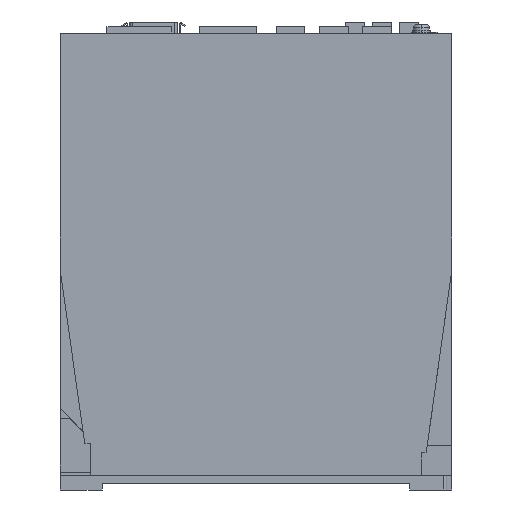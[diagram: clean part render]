
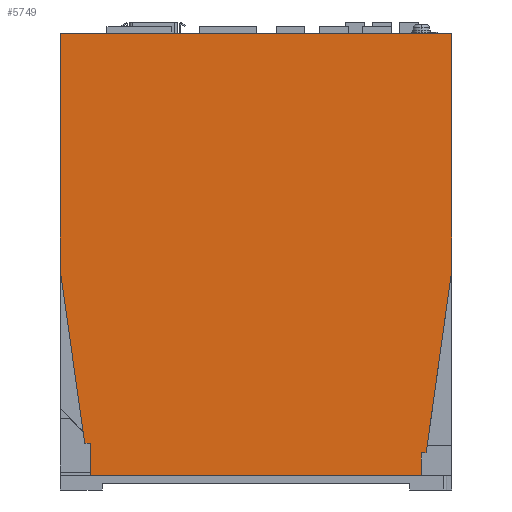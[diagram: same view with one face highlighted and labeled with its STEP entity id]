
A CAD part, left-side view. The second image highlights one B-rep face of the part: STEP entity #5749.
In plain terms, the highlighted planar face has unit normal (-1, 0, 0).
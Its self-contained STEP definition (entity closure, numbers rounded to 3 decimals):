
#2530=DIRECTION('',(0.,-1.,0.));
#2531=VECTOR('',#2530,168.);
#2532=CARTESIAN_POINT('',(-42.5,84.,0.));
#2533=LINE('',#2532,#2531);
#3368=DIRECTION('',(0.,0.,-1.));
#3369=VECTOR('',#3368,102.2);
#3370=CARTESIAN_POINT('',(-42.5,-84.,0.));
#3371=LINE('',#3370,#3369);
#3416=DIRECTION('',(0.,-1.,0.));
#3417=VECTOR('',#3416,142.);
#3418=CARTESIAN_POINT('',(-42.5,71.,-190.));
#3419=LINE('',#3418,#3417);
#3460=DIRECTION('',(0.,0.,1.));
#3461=VECTOR('',#3460,13.9);
#3462=CARTESIAN_POINT('',(-42.5,71.,-190.));
#3463=LINE('',#3462,#3461);
#3464=DIRECTION('',(0.,1.,0.));
#3465=VECTOR('',#3464,2.56);
#3466=CARTESIAN_POINT('',(-42.5,71.,-176.1));
#3467=LINE('',#3466,#3465);
#3468=DIRECTION('',(0.,0.14,0.99));
#3469=VECTOR('',#3468,74.634);
#3470=CARTESIAN_POINT('',(-42.5,73.56,-176.1));
#3471=LINE('',#3470,#3469);
#3472=DIRECTION('',(0.,0.,-1.));
#3473=VECTOR('',#3472,102.2);
#3474=CARTESIAN_POINT('',(-42.5,84.,0.));
#3475=LINE('',#3474,#3473);
#3476=DIRECTION('',(0.,0.138,-0.99));
#3477=VECTOR('',#3476,78.788);
#3478=CARTESIAN_POINT('',(-42.5,-84.,-102.2));
#3479=LINE('',#3478,#3477);
#3480=DIRECTION('',(0.,1.,0.));
#3481=VECTOR('',#3480,2.1);
#3482=CARTESIAN_POINT('',(-42.5,-73.1,-180.23));
#3483=LINE('',#3482,#3481);
#3484=DIRECTION('',(0.,0.,1.));
#3485=VECTOR('',#3484,9.77);
#3486=CARTESIAN_POINT('',(-42.5,-71.,-190.));
#3487=LINE('',#3486,#3485);
#4136=CARTESIAN_POINT('',(-42.5,84.,0.));
#4137=CARTESIAN_POINT('',(-42.5,-84.,0.));
#4138=VERTEX_POINT('',#4136);
#4139=VERTEX_POINT('',#4137);
#4144=CARTESIAN_POINT('',(-42.5,71.,-190.));
#4145=CARTESIAN_POINT('',(-42.5,71.,-176.1));
#4146=VERTEX_POINT('',#4144);
#4147=VERTEX_POINT('',#4145);
#4148=CARTESIAN_POINT('',(-42.5,73.56,-176.1));
#4149=VERTEX_POINT('',#4148);
#4150=CARTESIAN_POINT('',(-42.5,84.,-102.2));
#4151=VERTEX_POINT('',#4150);
#4152=CARTESIAN_POINT('',(-42.5,-71.,-190.));
#4153=VERTEX_POINT('',#4152);
#4154=CARTESIAN_POINT('',(-42.5,-84.,-102.2));
#4155=CARTESIAN_POINT('',(-42.5,-73.1,-180.23));
#4156=VERTEX_POINT('',#4154);
#4157=VERTEX_POINT('',#4155);
#4158=CARTESIAN_POINT('',(-42.5,-71.,-180.23));
#4159=VERTEX_POINT('',#4158);
#5729=CARTESIAN_POINT('',(-42.5,84.,0.));
#5730=DIRECTION('',(-1.,0.,0.));
#5731=DIRECTION('',(0.,-1.,0.));
#5732=AXIS2_PLACEMENT_3D('',#5729,#5730,#5731);
#5733=PLANE('',#5732);
#5734=ORIENTED_EDGE('',*,*,#5696,.T.);
#5735=ORIENTED_EDGE('',*,*,#5710,.T.);
#5736=ORIENTED_EDGE('',*,*,#5723,.T.);
#5737=ORIENTED_EDGE('',*,*,#4962,.F.);
#5738=ORIENTED_EDGE('',*,*,#4679,.T.);
#5739=ORIENTED_EDGE('',*,*,#5541,.T.);
#5741=ORIENTED_EDGE('',*,*,#5740,.T.);
#5743=ORIENTED_EDGE('',*,*,#5742,.T.);
#5745=ORIENTED_EDGE('',*,*,#5744,.F.);
#5746=ORIENTED_EDGE('',*,*,#5673,.F.);
#5747=EDGE_LOOP('',(#5734,#5735,#5736,#5737,#5738,#5739,#5741,#5743,#5745,
#5746));
#5748=FACE_OUTER_BOUND('',#5747,.F.);
#5749=ADVANCED_FACE('',(#5748),#5733,.T.);
#4679=EDGE_CURVE('',#4138,#4139,#2533,.T.);
#4962=EDGE_CURVE('',#4138,#4151,#3475,.T.);
#5541=EDGE_CURVE('',#4139,#4156,#3371,.T.);
#5673=EDGE_CURVE('',#4146,#4153,#3419,.T.);
#5696=EDGE_CURVE('',#4146,#4147,#3463,.T.);
#5710=EDGE_CURVE('',#4147,#4149,#3467,.T.);
#5723=EDGE_CURVE('',#4149,#4151,#3471,.T.);
#5740=EDGE_CURVE('',#4156,#4157,#3479,.T.);
#5742=EDGE_CURVE('',#4157,#4159,#3483,.T.);
#5744=EDGE_CURVE('',#4153,#4159,#3487,.T.);
